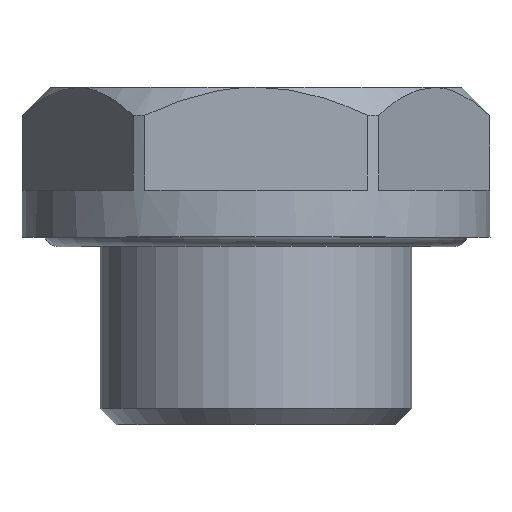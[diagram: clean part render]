
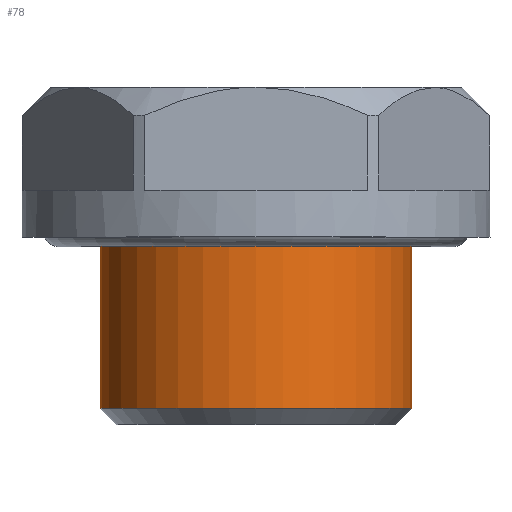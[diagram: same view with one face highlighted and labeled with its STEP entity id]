
A CAD part, top view. The second image highlights one B-rep face of the part: STEP entity #78.
In plain terms, the highlighted cylindrical face has radius 8.331 mm (diameter 16.662 mm), a full revolution.
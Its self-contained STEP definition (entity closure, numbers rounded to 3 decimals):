
#78 = ADVANCED_FACE( '', ( #141, #142 ), #143, .T. );
#141 = FACE_OUTER_BOUND( '', #267, .T. );
#142 = FACE_OUTER_BOUND( '', #268, .T. );
#143 = CYLINDRICAL_SURFACE( '', #269, 8.331 );
#267 = EDGE_LOOP( '', ( #403 ) );
#268 = EDGE_LOOP( '', ( #404 ) );
#269 = AXIS2_PLACEMENT_3D( '', #405, #406, #407 );
#403 = ORIENTED_EDGE( '', *, *, #829, .F. );
#404 = ORIENTED_EDGE( '', *, *, #830, .T. );
#405 = CARTESIAN_POINT( '', ( 0., 0., 0. ) );
#406 = DIRECTION( '', ( 0., 1., 0. ) );
#407 = DIRECTION( '', ( 0., 0., -1. ) );
#829 = EDGE_CURVE( '', #969, #969, #970, .T. );
#830 = EDGE_CURVE( '', #971, #971, #972, .T. );
#969 = VERTEX_POINT( '', #1209 );
#970 = CIRCLE( '', #1210, 8.331 );
#971 = VERTEX_POINT( '', #1211 );
#972 = CIRCLE( '', #1212, 8.331 );
#1209 = CARTESIAN_POINT( '', ( 0., 0.856, -8.331 ) );
#1210 = AXIS2_PLACEMENT_3D( '', #1595, #1596, #1597 );
#1211 = CARTESIAN_POINT( '', ( 0., 10., -8.331 ) );
#1212 = AXIS2_PLACEMENT_3D( '', #1598, #1599, #1600 );
#1595 = CARTESIAN_POINT( '', ( 0., 0.856, 0. ) );
#1596 = DIRECTION( '', ( 0., -1., 0. ) );
#1597 = DIRECTION( '', ( 0., 0., -1. ) );
#1598 = CARTESIAN_POINT( '', ( 0., 10., 0. ) );
#1599 = DIRECTION( '', ( 0., -1., 0. ) );
#1600 = DIRECTION( '', ( 0., 0., -1. ) );
